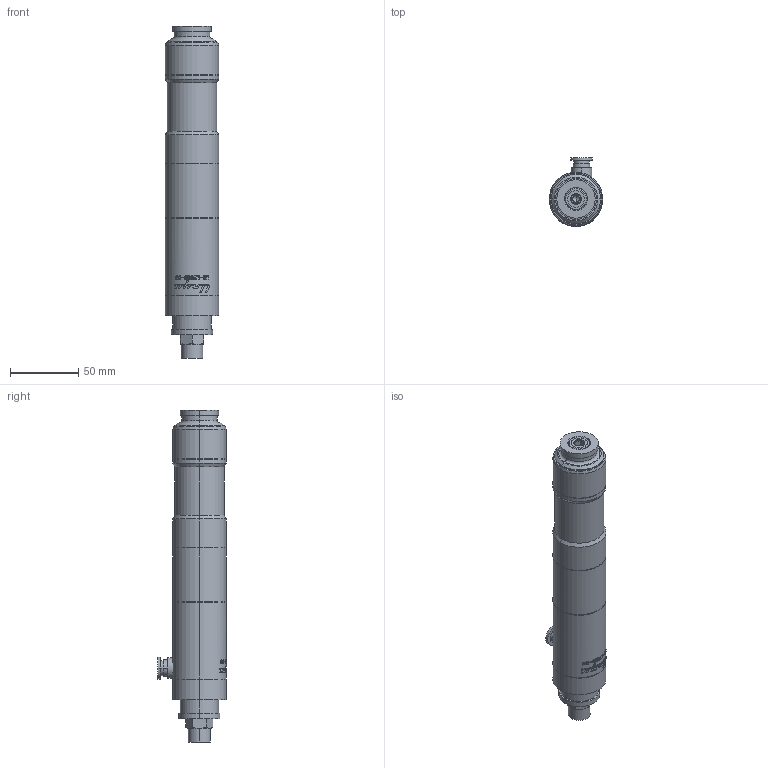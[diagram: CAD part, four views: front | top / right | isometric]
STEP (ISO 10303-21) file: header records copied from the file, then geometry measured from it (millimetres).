
FILE_DESCRIPTION (( 'STEP AP203' ), '1' );
FILE_NAME ('US-LT50B-05.STEP', '2006-03-22T04:20:55', ( '' ), ( '' ), 'SwSTEP 2.0', 'SolidWorks 2003240', '' );
FILE_SCHEMA (( 'CONFIG_CONTROL_DESIGN' ));
Length unit declared in the file: millimetre
Products named in the file (6): 4443194_US-LT50B-05_蹬怮椔; US-LT50B-05; 4445674_US-LT50B-05_蹬怮椔; 4440254_US-LT50B-05_蹬怮椔; 8930581_US-LT50B-05_蹬怮椔; 9810020_US-LT50B-05_蹬怮椔
Assembly tree (5 placements, depth 2):
  US-LT50B-05
    9810020_US-LT50B-05_蹬怮椔
    4443194_US-LT50B-05_蹬怮椔
    4440254_US-LT50B-05_蹬怮椔
    8930581_US-LT50B-05_蹬怮椔
    4445674_US-LT50B-05_蹬怮椔
Bounding box: 39 x 50.2 x 242.5 mm (x, y, z)
Volume: 249602.1 mm3; surface area: 37538.1 mm2
Topology: 5 solids, 5 shells, 413 faces, 1040 edges, 678 vertices
Faces by surface type: plane 140, cylinder 133, bspline 106, cone 30, sphere 2, torus 2
Entity records: 19128 total; most frequent: CARTESIAN_POINT 9492, ORIENTED_EDGE 2066, DIRECTION 1537, EDGE_CURVE 1033, VERTEX_POINT 675, AXIS2_PLACEMENT_3D 567, EDGE_LOOP 462, FACE_OUTER_BOUND 413
